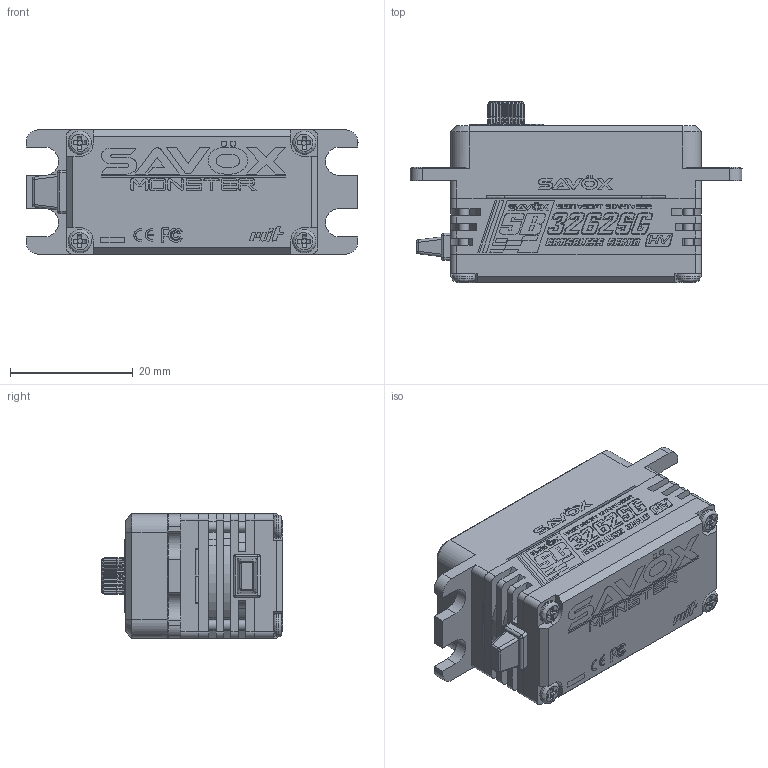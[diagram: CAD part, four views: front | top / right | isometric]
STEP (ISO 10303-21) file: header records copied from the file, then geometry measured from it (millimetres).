
FILE_DESCRIPTION (( 'STEP AP214' ), '1' );
FILE_NAME ('SB-3262SG_3D??.STEP', '2025-04-18T10:22:03', ( '' ), ( '' ), 'SwSTEP 2.0', 'SolidWorks 2024', '' );
FILE_SCHEMA (( 'AUTOMOTIVE_DESIGN' ));
Length unit declared in the file: millimetre
Products named in the file (1): SB-3262SG_3D零件
Bounding box: 54 x 29.55 x 20.2 mm (x, y, z)
Volume: 21164.3 mm3; surface area: 5974.5 mm2
Topology: 1 solids, 5 shells, 763 faces, 5303 edges, 4749 vertices
Faces by surface type: plane 421, cylinder 203, cone 88, bspline 51
Full cylindrical faces by diameter (mm): 1.2 x1, 1.6 x2, 1.7 x10, 2 x1, 2.5 x1, 3.15 x1, 3.8 x4, 6.1 x1, 12 x1
Entity records: 66229 total; most frequent: CARTESIAN_POINT 19145, ORIENTED_EDGE 10512, DIRECTION 5438, EDGE_CURVE 5256, VERTEX_POINT 4741, VECTOR 2492, LINE 2492, B_SPLINE_CURVE_WITH_KNOTS 1967
